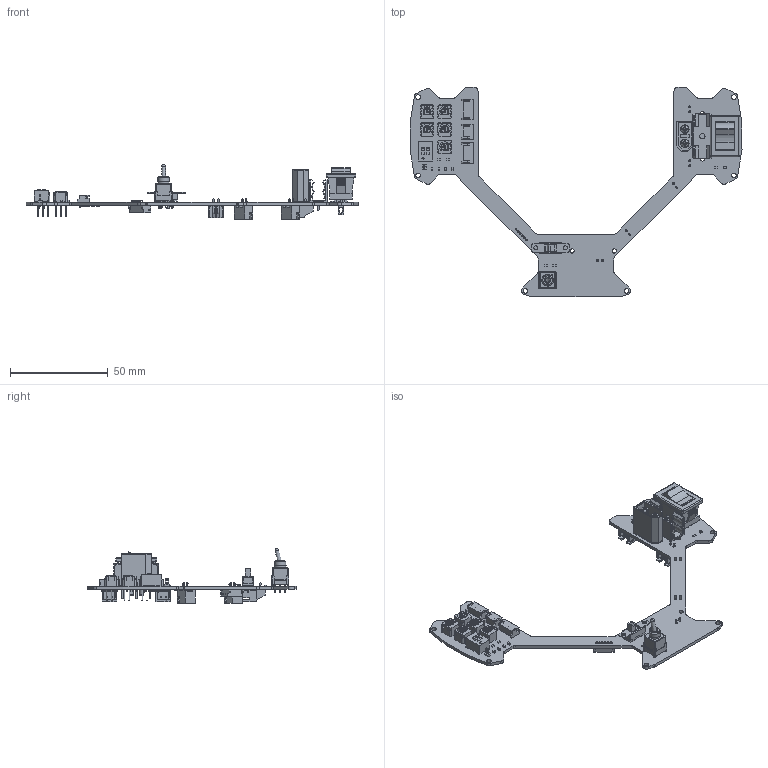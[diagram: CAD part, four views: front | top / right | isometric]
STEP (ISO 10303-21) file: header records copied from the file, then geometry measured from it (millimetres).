
FILE_DESCRIPTION(('KiCad electronic assembly'),'2;1');
FILE_NAME('control20211108.step','2021-11-09T00:02:31',('An Author'),( 'A Company'),'Open CASCADE STEP processor 6.9', 'KiCad to STEP converter','Unknown');
FILE_SCHEMA(('AUTOMOTIVE_DESIGN { 1 0 10303 214 1 1 1 1 }'));
Length unit declared in the file: millimetre
Products named in the file (34): Open CASCADE STEP translator 6.9 1; JST_XH_B2B-XH-A_1x02_P2.50mm_Vertical; SOLID; JST_XH_S2B-XH-A_1x02_P2.50mm_Horizontal; S6B-ZR; S4B-ZR; JST_XH_S2B-XH-A-1_1x02_P2.50mm_Horizontal; R_0603_1608Metric; PinHeader_1x02_P1.27mm_Vertical; LED_0603_1608Metric; B-12CCPQ(Q=R,M,Y,RM); MFS101D-14-Z; COMPOUND; SLE6D; CT-6ETP10; XT60-M--3DModel-STEP-56544; Fuseholder_Cylinder-5x20mm_Schurter_0031_8201_Horizontal_Open; SW_DIP_SPSTx02_Slide_9.78x7.26mm_W7.62mm_P2.54mm
Assembly tree (53 placements, depth 3):
  Open CASCADE STEP translator 6.9 1
    JST_XH_B2B-XH-A_1x02_P2.50mm_Vertical  x2
      SOLID
    JST_XH_S2B-XH-A_1x02_P2.50mm_Horizontal
      SOLID
    S6B-ZR  x3
      SOLID
    S4B-ZR
      SOLID
    JST_XH_S2B-XH-A-1_1x02_P2.50mm_Horizontal  x2
      SOLID
    R_0603_1608Metric  x9
      SOLID
    PinHeader_1x02_P1.27mm_Vertical
      SOLID
    LED_0603_1608Metric  x5
      SOLID
    B-12CCPQ(Q=R,M,Y,RM)
      SOLID
    MFS101D-14-Z
      COMPOUND
    SLE6D
      COMPOUND
    CT-6ETP10  x5
      COMPOUND
    XT60-M--3DModel-STEP-56544
      COMPOUND
    XT60-M--3DModel-STEP-56544
      COMPOUND
    Fuseholder_Cylinder-5x20mm_Schurter_0031_8201_Horizontal_Open
      SOLID
    SW_DIP_SPSTx02_Slide_9.78x7.26mm_W7.62mm_P2.54mm
      SOLID
    COMPOUND
Bounding box: 169.44 x 106.89 x 27.87 mm (x, y, z)
Volume: 17385.1 mm3; surface area: 28027.9 mm2
Topology: 51 solids, 51 shells, 3203 faces, 8598 edges, 5620 vertices
Faces by surface type: plane 2417, cylinder 725, cone 40, revolution 16, sphere 4, bspline 1
Full cylindrical faces by diameter (mm): 0.002 x1, 0.45 x15, 0.6 x6, 0.65 x2, 0.73 x22, 0.8 x4, 0.813 x6, 0.92 x15, 1 x10, 1.95 x1, 2 x4, 2.1 x2, 2.2 x2, 2.4 x6, 2.7 x1, 3 x1, 3.3 x10, 4.5 x2, 5.8 x1, 5.9 x1
Entity records: 140515 total; most frequent: CARTESIAN_POINT 28213, DIRECTION 19460, LINE 13033, VECTOR 13033, ORIENTED_EDGE 10144, PCURVE 10144, DEFINITIONAL_REPRESENTATION 10144, EDGE_CURVE 5072
